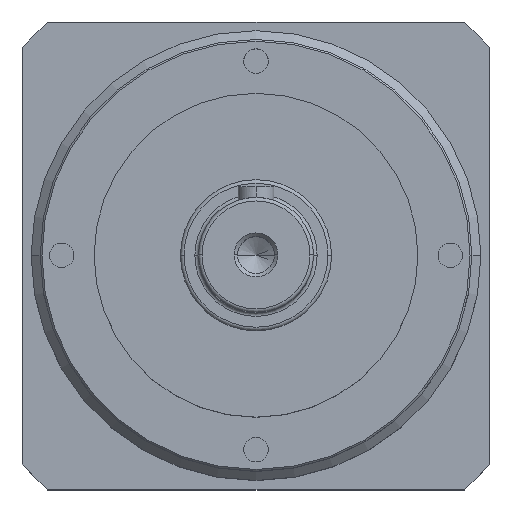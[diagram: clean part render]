
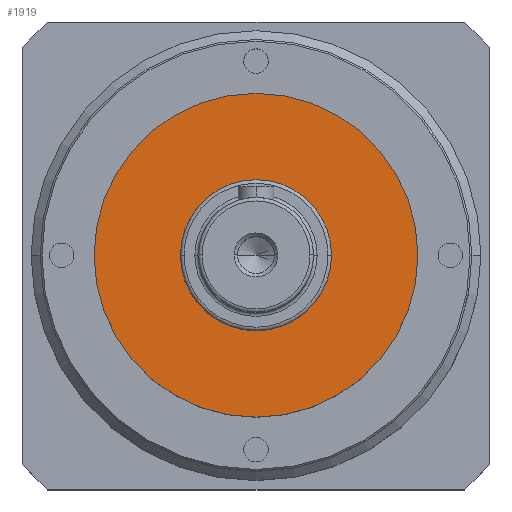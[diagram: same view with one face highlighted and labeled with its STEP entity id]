
A CAD part, top view. The second image highlights one B-rep face of the part: STEP entity #1919.
In plain terms, the highlighted planar face has unit normal (0, 0, 1).
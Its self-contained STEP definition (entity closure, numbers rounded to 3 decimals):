
#45 = EDGE_LOOP ( 'NONE', ( #351, #1918 ) ) ;
#149 = FACE_OUTER_BOUND ( 'NONE', #45, .T. ) ;
#351 = ORIENTED_EDGE ( 'NONE', *, *, #1080, .T. ) ;
#535 = CARTESIAN_POINT ( 'NONE',  ( 45., 0., 40. ) ) ;
#642 = AXIS2_PLACEMENT_3D ( 'NONE', #2720, #3491, #2762 ) ;
#970 = AXIS2_PLACEMENT_3D ( 'NONE', #4689, #3530, #3112 ) ;
#993 = CIRCLE ( 'NONE', #642, 45. ) ;
#997 = CARTESIAN_POINT ( 'NONE',  ( 0., 0., 40. ) ) ;
#1042 = VERTEX_POINT ( 'NONE', #1521 ) ;
#1080 = EDGE_CURVE ( 'NONE', #1042, #3372, #993, .T. ) ;
#1407 = VERTEX_POINT ( 'NONE', #3377 ) ;
#1521 = CARTESIAN_POINT ( 'NONE',  ( -45., 0., 40. ) ) ;
#1765 = CIRCLE ( 'NONE', #3870, 21. ) ;
#1918 = ORIENTED_EDGE ( 'NONE', *, *, #3229, .T. ) ;
#1919 = ADVANCED_FACE ( 'NONE', ( #4386, #149 ), #2164, .T. ) ;
#2007 = DIRECTION ( 'NONE',  ( 0., 0., 1. ) ) ;
#2077 = ORIENTED_EDGE ( 'NONE', *, *, #2785, .F. ) ;
#2164 = PLANE ( 'NONE',  #2792 ) ;
#2344 = CARTESIAN_POINT ( 'NONE',  ( -21., 0., 40. ) ) ;
#2480 = CIRCLE ( 'NONE', #970, 45. ) ;
#2622 = CARTESIAN_POINT ( 'NONE',  ( 0., 0., 40. ) ) ;
#2651 = DIRECTION ( 'NONE',  ( 1., 0., 0. ) ) ;
#2720 = CARTESIAN_POINT ( 'NONE',  ( 0., 0., 40. ) ) ;
#2733 = ORIENTED_EDGE ( 'NONE', *, *, #3004, .F. ) ;
#2762 = DIRECTION ( 'NONE',  ( 1., 0., 0. ) ) ;
#2785 = EDGE_CURVE ( 'NONE', #2925, #1407, #1765, .T. ) ;
#2792 = AXIS2_PLACEMENT_3D ( 'NONE', #997, #4457, #3686 ) ;
#2871 = EDGE_LOOP ( 'NONE', ( #2733, #2077 ) ) ;
#2925 = VERTEX_POINT ( 'NONE', #2344 ) ;
#3004 = EDGE_CURVE ( 'NONE', #1407, #2925, #4423, .T. ) ;
#3112 = DIRECTION ( 'NONE',  ( 1., 0., 0. ) ) ;
#3214 = CARTESIAN_POINT ( 'NONE',  ( 0., 0., 40. ) ) ;
#3229 = EDGE_CURVE ( 'NONE', #3372, #1042, #2480, .T. ) ;
#3372 = VERTEX_POINT ( 'NONE', #535 ) ;
#3377 = CARTESIAN_POINT ( 'NONE',  ( 21., 0., 40. ) ) ;
#3461 = DIRECTION ( 'NONE',  ( 0., 0., 1. ) ) ;
#3491 = DIRECTION ( 'NONE',  ( 0., 0., 1. ) ) ;
#3530 = DIRECTION ( 'NONE',  ( 0., 0., 1. ) ) ;
#3686 = DIRECTION ( 'NONE',  ( 1., 0., 0. ) ) ;
#3870 = AXIS2_PLACEMENT_3D ( 'NONE', #2622, #3461, #2651 ) ;
#4053 = AXIS2_PLACEMENT_3D ( 'NONE', #3214, #2007, #4341 ) ;
#4341 = DIRECTION ( 'NONE',  ( 1., 0., 0. ) ) ;
#4386 = FACE_BOUND ( 'NONE', #2871, .T. ) ;
#4423 = CIRCLE ( 'NONE', #4053, 21. ) ;
#4457 = DIRECTION ( 'NONE',  ( 0., 0., 1. ) ) ;
#4689 = CARTESIAN_POINT ( 'NONE',  ( 0., 0., 40. ) ) ;
